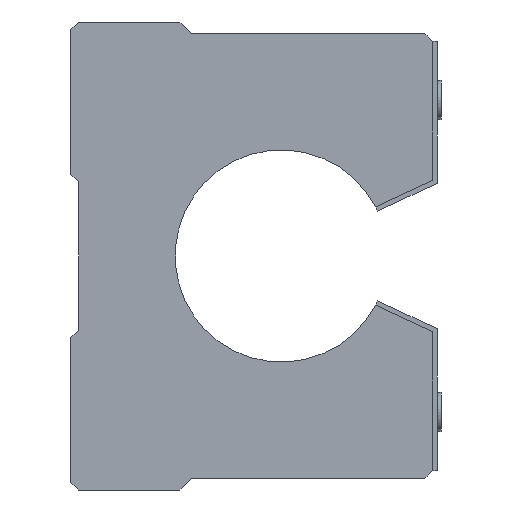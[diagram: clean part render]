
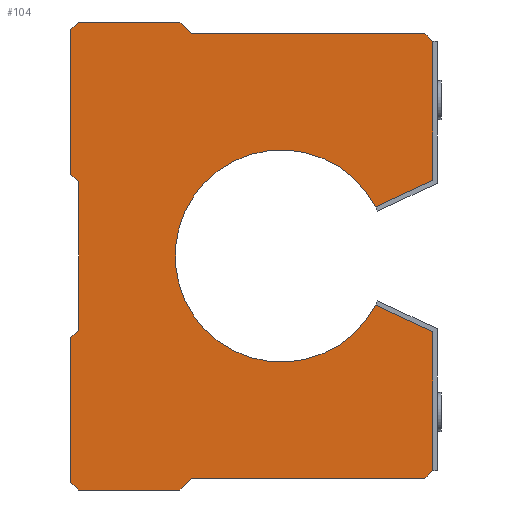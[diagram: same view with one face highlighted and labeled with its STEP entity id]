
A CAD part, left-side view. The second image highlights one B-rep face of the part: STEP entity #104.
In plain terms, the highlighted planar face has unit normal (-1, 0, 0).
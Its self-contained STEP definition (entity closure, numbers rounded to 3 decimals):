
#104 = ADVANCED_FACE( '', ( #264 ), #265, .F. );
#264 = FACE_OUTER_BOUND( '', #536, .T. );
#265 = PLANE( '', #537 );
#536 = EDGE_LOOP( '', ( #989, #990, #991, #992, #993, #994, #995, #996, #997, #998, #999, #1000, #1001, #1002, #1003, #1004, #1005, #1006, #1007, #1008 ) );
#537 = AXIS2_PLACEMENT_3D( '', #1009, #1010, #1011 );
#989 = ORIENTED_EDGE( '', *, *, #1823, .F. );
#990 = ORIENTED_EDGE( '', *, *, #1862, .F. );
#991 = ORIENTED_EDGE( '', *, *, #1857, .F. );
#992 = ORIENTED_EDGE( '', *, *, #1854, .F. );
#993 = ORIENTED_EDGE( '', *, *, #1851, .F. );
#994 = ORIENTED_EDGE( '', *, *, #1848, .F. );
#995 = ORIENTED_EDGE( '', *, *, #1843, .F. );
#996 = ORIENTED_EDGE( '', *, *, #1840, .F. );
#997 = ORIENTED_EDGE( '', *, *, #1837, .F. );
#998 = ORIENTED_EDGE( '', *, *, #1834, .F. );
#999 = ORIENTED_EDGE( '', *, *, #1831, .F. );
#1000 = ORIENTED_EDGE( '', *, *, #1785, .F. );
#1001 = ORIENTED_EDGE( '', *, *, #1782, .F. );
#1002 = ORIENTED_EDGE( '', *, *, #1794, .T. );
#1003 = ORIENTED_EDGE( '', *, *, #1828, .F. );
#1004 = ORIENTED_EDGE( '', *, *, #1830, .F. );
#1005 = ORIENTED_EDGE( '', *, *, #1809, .F. );
#1006 = ORIENTED_EDGE( '', *, *, #1814, .F. );
#1007 = ORIENTED_EDGE( '', *, *, #1817, .F. );
#1008 = ORIENTED_EDGE( '', *, *, #1820, .F. );
#1009 = CARTESIAN_POINT( '', ( -32.5, 0., 0. ) );
#1010 = DIRECTION( '', ( 1., 0., 0. ) );
#1011 = DIRECTION( '', ( 0., 0., -1. ) );
#1782 = EDGE_CURVE( '', #2135, #2137, #2138, .T. );
#1785 = EDGE_CURVE( '', #2137, #2141, #2142, .T. );
#1794 = EDGE_CURVE( '', #2135, #2156, #2157, .T. );
#1809 = EDGE_CURVE( '', #2181, #2182, #2183, .T. );
#1814 = EDGE_CURVE( '', #2190, #2181, #2191, .T. );
#1817 = EDGE_CURVE( '', #2195, #2190, #2196, .T. );
#1820 = EDGE_CURVE( '', #2200, #2195, #2201, .T. );
#1823 = EDGE_CURVE( '', #2205, #2200, #2206, .T. );
#1828 = EDGE_CURVE( '', #2212, #2156, #2214, .T. );
#1830 = EDGE_CURVE( '', #2182, #2212, #2216, .T. );
#1831 = EDGE_CURVE( '', #2141, #2217, #2218, .T. );
#1834 = EDGE_CURVE( '', #2217, #2222, #2223, .T. );
#1837 = EDGE_CURVE( '', #2222, #2227, #2228, .T. );
#1840 = EDGE_CURVE( '', #2227, #2232, #2233, .T. );
#1843 = EDGE_CURVE( '', #2232, #2237, #2238, .T. );
#1848 = EDGE_CURVE( '', #2237, #2246, #2247, .T. );
#1851 = EDGE_CURVE( '', #2246, #2251, #2252, .T. );
#1854 = EDGE_CURVE( '', #2251, #2256, #2257, .T. );
#1857 = EDGE_CURVE( '', #2256, #2261, #2262, .T. );
#1862 = EDGE_CURVE( '', #2261, #2205, #2270, .T. );
#2135 = VERTEX_POINT( '', #2692 );
#2137 = VERTEX_POINT( '', #2695 );
#2138 = LINE( '', #2696, #2697 );
#2141 = VERTEX_POINT( '', #2702 );
#2142 = LINE( '', #2703, #2704 );
#2156 = VERTEX_POINT( '', #2726 );
#2157 = CIRCLE( '', #2727, 13.606 );
#2181 = VERTEX_POINT( '', #2760 );
#2182 = VERTEX_POINT( '', #2761 );
#2183 = LINE( '', #2762, #2763 );
#2190 = VERTEX_POINT( '', #2774 );
#2191 = LINE( '', #2775, #2776 );
#2195 = VERTEX_POINT( '', #2782 );
#2196 = LINE( '', #2783, #2784 );
#2200 = VERTEX_POINT( '', #2790 );
#2201 = LINE( '', #2791, #2792 );
#2205 = VERTEX_POINT( '', #2798 );
#2206 = LINE( '', #2799, #2800 );
#2212 = VERTEX_POINT( '', #2809 );
#2214 = LINE( '', #2812, #2813 );
#2216 = LINE( '', #2816, #2817 );
#2217 = VERTEX_POINT( '', #2818 );
#2218 = LINE( '', #2819, #2820 );
#2222 = VERTEX_POINT( '', #2826 );
#2223 = LINE( '', #2827, #2828 );
#2227 = VERTEX_POINT( '', #2834 );
#2228 = LINE( '', #2835, #2836 );
#2232 = VERTEX_POINT( '', #2842 );
#2233 = LINE( '', #2843, #2844 );
#2237 = VERTEX_POINT( '', #2850 );
#2238 = LINE( '', #2851, #2852 );
#2246 = VERTEX_POINT( '', #2862 );
#2247 = LINE( '', #2863, #2864 );
#2251 = VERTEX_POINT( '', #2870 );
#2252 = LINE( '', #2871, #2872 );
#2256 = VERTEX_POINT( '', #2878 );
#2257 = LINE( '', #2879, #2880 );
#2261 = VERTEX_POINT( '', #2886 );
#2262 = LINE( '', #2887, #2888 );
#2270 = LINE( '', #2898, #2899 );
#2692 = CARTESIAN_POINT( '', ( -32.5, -12.065, -6.288 ) );
#2695 = CARTESIAN_POINT( '', ( -32.5, -19.4, -9.708 ) );
#2696 = CARTESIAN_POINT( '', ( -32.5, -12.065, -6.288 ) );
#2697 = VECTOR( '', #3408, 1000. );
#2702 = CARTESIAN_POINT( '', ( -32.5, -19.4, -27.5 ) );
#2703 = CARTESIAN_POINT( '', ( -32.5, -19.4, -9.708 ) );
#2704 = VECTOR( '', #3411, 1000. );
#2726 = CARTESIAN_POINT( '', ( -32.5, -12.065, 6.288 ) );
#2727 = AXIS2_PLACEMENT_3D( '', #3420, #3421, #3422 );
#2760 = CARTESIAN_POINT( '', ( -32.5, -18.4, 28.5 ) );
#2761 = CARTESIAN_POINT( '', ( -32.5, -19.4, 27.5 ) );
#2762 = CARTESIAN_POINT( '', ( -32.5, -18.4, 28.5 ) );
#2763 = VECTOR( '', #3447, 1000. );
#2774 = CARTESIAN_POINT( '', ( -32.5, 11.5, 28.5 ) );
#2775 = CARTESIAN_POINT( '', ( -32.5, 11.5, 28.5 ) );
#2776 = VECTOR( '', #3452, 1000. );
#2782 = CARTESIAN_POINT( '', ( -32.5, 13., 30. ) );
#2783 = CARTESIAN_POINT( '', ( -32.5, 13., 30. ) );
#2784 = VECTOR( '', #3455, 1000. );
#2790 = CARTESIAN_POINT( '', ( -32.5, 26., 30. ) );
#2791 = CARTESIAN_POINT( '', ( -32.5, 26., 30. ) );
#2792 = VECTOR( '', #3458, 1000. );
#2798 = CARTESIAN_POINT( '', ( -32.5, 27., 29. ) );
#2799 = CARTESIAN_POINT( '', ( -32.5, 27., 29. ) );
#2800 = VECTOR( '', #3461, 1000. );
#2809 = CARTESIAN_POINT( '', ( -32.5, -19.4, 9.708 ) );
#2812 = CARTESIAN_POINT( '', ( -32.5, -19.4, 9.708 ) );
#2813 = VECTOR( '', #3466, 1000. );
#2816 = CARTESIAN_POINT( '', ( -32.5, -19.4, 27.5 ) );
#2817 = VECTOR( '', #3468, 1000. );
#2818 = CARTESIAN_POINT( '', ( -32.5, -18.4, -28.5 ) );
#2819 = CARTESIAN_POINT( '', ( -32.5, -19.4, -27.5 ) );
#2820 = VECTOR( '', #3469, 1000. );
#2826 = CARTESIAN_POINT( '', ( -32.5, 11.5, -28.5 ) );
#2827 = CARTESIAN_POINT( '', ( -32.5, -18.4, -28.5 ) );
#2828 = VECTOR( '', #3472, 1000. );
#2834 = CARTESIAN_POINT( '', ( -32.5, 13., -30. ) );
#2835 = CARTESIAN_POINT( '', ( -32.5, 11.5, -28.5 ) );
#2836 = VECTOR( '', #3475, 1000. );
#2842 = CARTESIAN_POINT( '', ( -32.5, 26., -30. ) );
#2843 = CARTESIAN_POINT( '', ( -32.5, 13., -30. ) );
#2844 = VECTOR( '', #3478, 1000. );
#2850 = CARTESIAN_POINT( '', ( -32.5, 27., -29. ) );
#2851 = CARTESIAN_POINT( '', ( -32.5, 26., -30. ) );
#2852 = VECTOR( '', #3481, 1000. );
#2862 = CARTESIAN_POINT( '', ( -32.5, 27., -10.5 ) );
#2863 = CARTESIAN_POINT( '', ( -32.5, 27., -29. ) );
#2864 = VECTOR( '', #3490, 1000. );
#2870 = CARTESIAN_POINT( '', ( -32.5, 26., -9.5 ) );
#2871 = CARTESIAN_POINT( '', ( -32.5, 27., -10.5 ) );
#2872 = VECTOR( '', #3493, 1000. );
#2878 = CARTESIAN_POINT( '', ( -32.5, 26., 9.5 ) );
#2879 = CARTESIAN_POINT( '', ( -32.5, 26., -9.5 ) );
#2880 = VECTOR( '', #3496, 1000. );
#2886 = CARTESIAN_POINT( '', ( -32.5, 27., 10.5 ) );
#2887 = CARTESIAN_POINT( '', ( -32.5, 26., 9.5 ) );
#2888 = VECTOR( '', #3499, 1000. );
#2898 = CARTESIAN_POINT( '', ( -32.5, 27., 10.5 ) );
#2899 = VECTOR( '', #3508, 1000. );
#3408 = DIRECTION( '', ( 0., -0.906, -0.423 ) );
#3411 = DIRECTION( '', ( 0., 0., -1. ) );
#3420 = CARTESIAN_POINT( '', ( -32.5, 0., 0. ) );
#3421 = DIRECTION( '', ( 1., 0., 0. ) );
#3422 = DIRECTION( '', ( 0., 0., -1. ) );
#3447 = DIRECTION( '', ( 0., -0.707, -0.707 ) );
#3452 = DIRECTION( '', ( 0., -1., 0. ) );
#3455 = DIRECTION( '', ( 0., -0.707, -0.707 ) );
#3458 = DIRECTION( '', ( 0., -1., 0. ) );
#3461 = DIRECTION( '', ( 0., -0.707, 0.707 ) );
#3466 = DIRECTION( '', ( 0., 0.906, -0.423 ) );
#3468 = DIRECTION( '', ( 0., 0., -1. ) );
#3469 = DIRECTION( '', ( 0., 0.707, -0.707 ) );
#3472 = DIRECTION( '', ( 0., 1., 0. ) );
#3475 = DIRECTION( '', ( 0., 0.707, -0.707 ) );
#3478 = DIRECTION( '', ( 0., 1., 0. ) );
#3481 = DIRECTION( '', ( 0., 0.707, 0.707 ) );
#3490 = DIRECTION( '', ( 0., 0., 1. ) );
#3493 = DIRECTION( '', ( 0., -0.707, 0.707 ) );
#3496 = DIRECTION( '', ( 0., 0., 1. ) );
#3499 = DIRECTION( '', ( 0., 0.707, 0.707 ) );
#3508 = DIRECTION( '', ( 0., 0., 1. ) );
